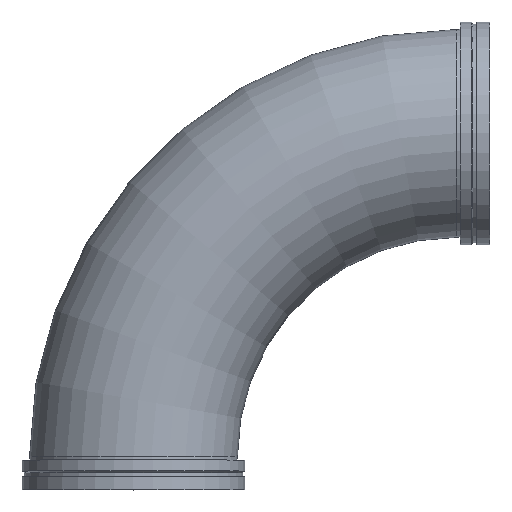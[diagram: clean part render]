
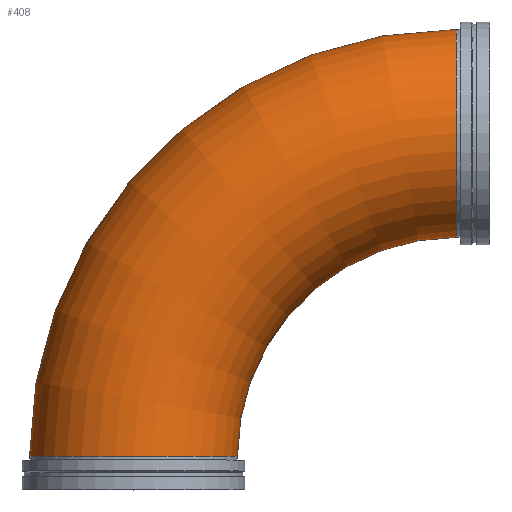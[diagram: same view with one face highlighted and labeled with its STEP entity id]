
A CAD part, top view. The second image highlights one B-rep face of the part: STEP entity #408.
In plain terms, the highlighted toroidal (fillet/blend) face has major radius 1104.9 mm and minor radius 355.6 mm.
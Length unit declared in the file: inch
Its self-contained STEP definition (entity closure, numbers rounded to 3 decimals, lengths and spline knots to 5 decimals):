
#46=TOROIDAL_SURFACE('',#484,43.5,14.);
#105=FACE_OUTER_BOUND('',#129,.T.);
#129=EDGE_LOOP('',(#346,#347,#348,#349,#350,#351));
#169=CIRCLE('',#482,14.);
#170=CIRCLE('',#483,14.);
#171=CIRCLE('',#485,29.5);
#172=CIRCLE('',#486,14.);
#173=CIRCLE('',#487,14.);
#207=VERTEX_POINT('',#756);
#208=VERTEX_POINT('',#758);
#209=VERTEX_POINT('',#762);
#210=VERTEX_POINT('',#764);
#256=EDGE_CURVE('',#207,#208,#169,.T.);
#257=EDGE_CURVE('',#208,#207,#170,.T.);
#258=EDGE_CURVE('',#208,#209,#171,.T.);
#259=EDGE_CURVE('',#209,#210,#172,.T.);
#260=EDGE_CURVE('',#210,#209,#173,.T.);
#346=ORIENTED_EDGE('',*,*,#256,.F.);
#347=ORIENTED_EDGE('',*,*,#257,.F.);
#348=ORIENTED_EDGE('',*,*,#258,.T.);
#349=ORIENTED_EDGE('',*,*,#259,.T.);
#350=ORIENTED_EDGE('',*,*,#260,.T.);
#351=ORIENTED_EDGE('',*,*,#258,.F.);
#408=ADVANCED_FACE('',(#105),#46,.T.);
#482=AXIS2_PLACEMENT_3D('',#759,#617,#618);
#483=AXIS2_PLACEMENT_3D('',#760,#619,#620);
#484=AXIS2_PLACEMENT_3D('',#761,#621,#622);
#485=AXIS2_PLACEMENT_3D('',#763,#623,#624);
#486=AXIS2_PLACEMENT_3D('',#765,#625,#626);
#487=AXIS2_PLACEMENT_3D('',#766,#627,#628);
#617=DIRECTION('center_axis',(1.,0.,0.));
#618=DIRECTION('ref_axis',(0.,-1.,0.));
#619=DIRECTION('center_axis',(1.,0.,0.));
#620=DIRECTION('ref_axis',(0.,-1.,0.));
#621=DIRECTION('center_axis',(0.,0.,-1.));
#622=DIRECTION('ref_axis',(-1.,0.,0.));
#623=DIRECTION('center_axis',(0.,0.,1.));
#624=DIRECTION('ref_axis',(-1.,0.,0.));
#625=DIRECTION('center_axis',(0.,1.,0.));
#626=DIRECTION('ref_axis',(1.,0.,0.));
#627=DIRECTION('center_axis',(0.,1.,0.));
#628=DIRECTION('ref_axis',(1.,0.,0.));
#756=CARTESIAN_POINT('',(43.5,62.,0.));
#758=CARTESIAN_POINT('',(43.5,34.,0.));
#759=CARTESIAN_POINT('Origin',(43.5,48.,0.));
#760=CARTESIAN_POINT('Origin',(43.5,48.,0.));
#761=CARTESIAN_POINT('Origin',(43.5,4.5,0.));
#762=CARTESIAN_POINT('',(14.,4.5,0.));
#763=CARTESIAN_POINT('Origin',(43.5,4.5,0.));
#764=CARTESIAN_POINT('',(-14.,4.5,0.));
#765=CARTESIAN_POINT('Origin',(0.,4.5,0.));
#766=CARTESIAN_POINT('Origin',(0.,4.5,0.));
